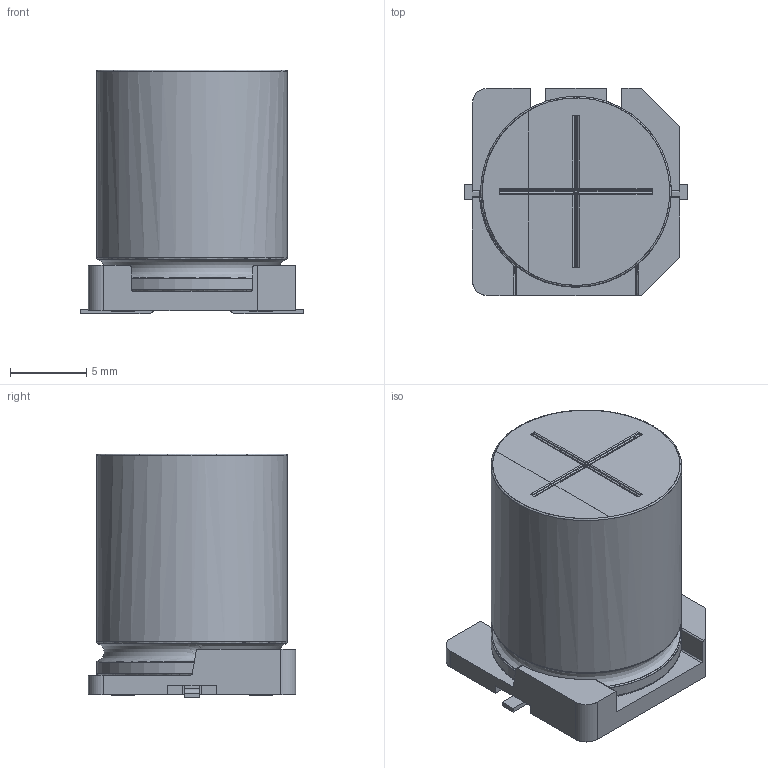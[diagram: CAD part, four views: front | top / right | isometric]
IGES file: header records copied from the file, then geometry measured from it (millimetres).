
Start section: JAMA-IS VERSION  1.0
Bounding box: 14.6 x 13.6 x 16 mm (x, y, z)
Surface area: 1401 mm2 (no closed solid volume)
Topology: 0 solids, 0 shells, 146 faces, 1299 edges, 1278 vertices
Faces by surface type: bspline 146
